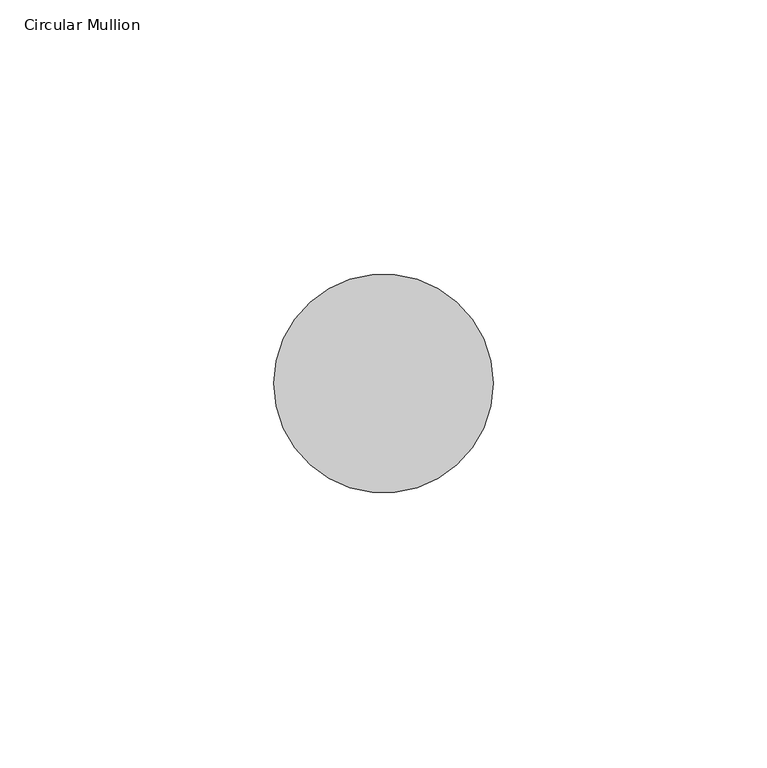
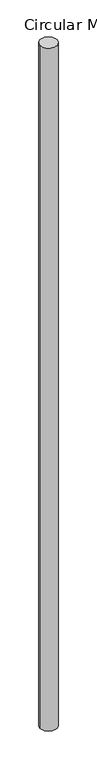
"""IFC4 building model written with IfcOpenShell, lengths in millimetres: member geometry, Circular Mullion : GRADIL 40mm."""

from ifc_helpers import new_model, si_unit, point, frame, origin, origin_2d, place, context, project, spatial, circle_curve, trimmed, segment, composite_curve, outline, extrude, source, transform, mapped, element, save


def circular_mullion_dbb40213(model_context):
    return source(origin(), model_context, "Body", "SweptSolid", [
        extrude(outline(composite_curve([segment(trimmed(circle_curve(origin_2d(), 20.0), [point((20.0, 0.0))], [point((-20.0, 0.0))], False, "CARTESIAN"), True, "CONTINUOUS"), segment(trimmed(circle_curve(origin_2d(), 20.0), [point((-20.0, 0.0))], [point((20.0, 0.0))], False, "CARTESIAN"), True, "CONTINUOUS")], self_intersect=False)), frame((0.0, 0.0, -1682.8071731), z_axis=(0.0, 0.0, 1.0), x_axis=(1.0, 0.0, 0.0)), (0.0, 0.0, 1.0), 1682.8071731),
    ])


if __name__ == "__main__":
    model = new_model("IFC4")
    model_context = context("Model", 3, world=origin())
    ifc_project = project(units=[si_unit("LENGTHUNIT", "METRE", prefix="MILLI")], contexts=[model_context])
    site = spatial("IfcSite", under=ifc_project)
    building = spatial("IfcBuilding", under=site)
    placement = place(None, origin())
    circular_mullion_shape = circular_mullion_dbb40213(model_context)
    element("IfcMember", 1, ObjectType="Circular Mullion : GRADIL 40mm", at=placement, inside=building, context=model_context, shape_type="MappedRepresentation", body=[
        mapped(circular_mullion_shape, transform((0.0, 0.0, 0.0), x_axis=(1.0, 0.0, 0.0), y_axis=(0.0, 1.0, 0.0), z_axis=(0.0, 0.0, 1.0))),
    ])
    save(model, "model.ifc")
